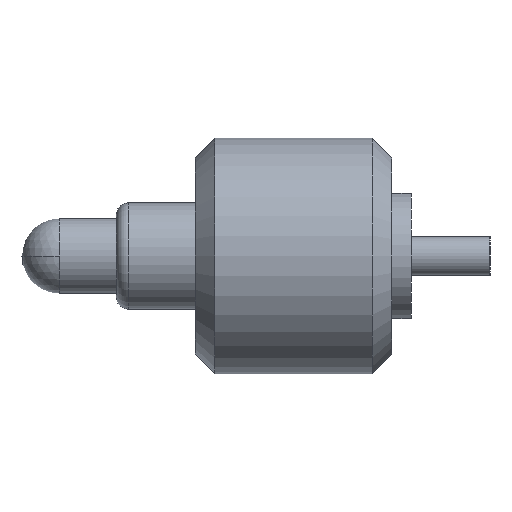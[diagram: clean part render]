
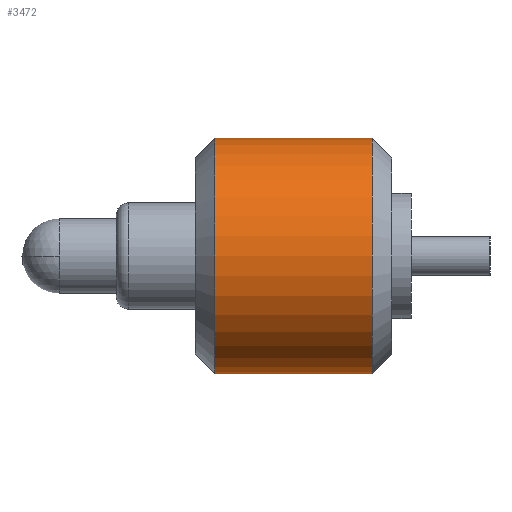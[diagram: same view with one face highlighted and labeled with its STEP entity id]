
A CAD part, left-side view. The second image highlights one B-rep face of the part: STEP entity #3472.
In plain terms, the highlighted cylindrical face has radius 3 mm (diameter 6 mm), a partial arc.
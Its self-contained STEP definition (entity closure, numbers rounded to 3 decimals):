
#2900=CARTESIAN_POINT('',(-13.5,5.554,0.));
#2901=DIRECTION('',(0.,1.,0.));
#2902=DIRECTION('',(0.,0.,-1.));
#2903=AXIS2_PLACEMENT_3D('',#2900,#2901,#2902);
#2915=CARTESIAN_POINT('',(-13.5,1.554,0.));
#2916=DIRECTION('',(0.,-1.,0.));
#2917=DIRECTION('',(0.,0.,1.));
#2918=AXIS2_PLACEMENT_3D('',#2915,#2916,#2917);
#2923=DIRECTION('',(0.,-1.,0.));
#2924=VECTOR('',#2923,4.);
#2925=CARTESIAN_POINT('',(-13.5,5.554,-3.));
#2926=LINE('',#2925,#2924);
#2930=DIRECTION('',(0.,1.,0.));
#2931=VECTOR('',#2930,4.);
#2932=CARTESIAN_POINT('',(-13.5,1.554,3.));
#2933=LINE('',#2932,#2931);
#3241=CARTESIAN_POINT('',(-13.5,5.554,3.));
#3243=VERTEX_POINT('',#3241);
#3246=CARTESIAN_POINT('',(-13.5,5.554,-3.));
#3248=VERTEX_POINT('',#3246);
#3261=CARTESIAN_POINT('',(-13.5,1.554,3.));
#3262=CARTESIAN_POINT('',(-13.5,1.554,-3.));
#3263=VERTEX_POINT('',#3261);
#3264=VERTEX_POINT('',#3262);
#3458=CARTESIAN_POINT('',(-13.5,6.054,0.));
#3459=DIRECTION('',(0.,-1.,0.));
#3460=DIRECTION('',(0.,0.,-1.));
#3461=AXIS2_PLACEMENT_3D('',#3458,#3459,#3460);
#3462=CYLINDRICAL_SURFACE('',#3461,3.);
#3464=ORIENTED_EDGE('',*,*,#3463,.T.);
#3466=ORIENTED_EDGE('',*,*,#3465,.F.);
#3467=ORIENTED_EDGE('',*,*,#3450,.T.);
#3469=ORIENTED_EDGE('',*,*,#3468,.F.);
#3470=EDGE_LOOP('',(#3464,#3466,#3467,#3469));
#3471=FACE_OUTER_BOUND('',#3470,.F.);
#3472=ADVANCED_FACE('',(#3471),#3462,.T.);
#2904=CIRCLE('',#2903,3.);
#2919=CIRCLE('',#2918,3.);
#3450=EDGE_CURVE('',#3248,#3243,#2904,.T.);
#3463=EDGE_CURVE('',#3263,#3264,#2919,.T.);
#3465=EDGE_CURVE('',#3248,#3264,#2926,.T.);
#3468=EDGE_CURVE('',#3263,#3243,#2933,.T.);
